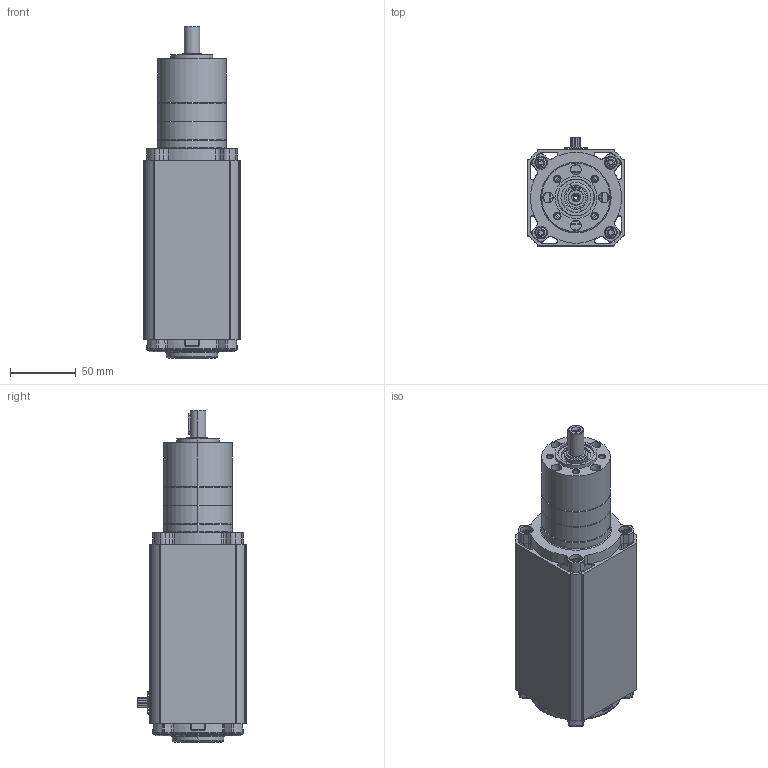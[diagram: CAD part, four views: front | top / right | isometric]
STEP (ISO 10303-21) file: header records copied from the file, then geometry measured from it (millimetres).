
FILE_DESCRIPTION (( 'STEP AP214' ), '1' );
FILE_NAME ('BL6560-PL5200i_2S.STEP', '2013-03-04T15:48:50', ( '' ), ( '' ), 'SwSTEP 2.0', 'SolidWorks 2013', '' );
FILE_SCHEMA (( 'AUTOMOTIVE_DESIGN' ));
Length unit declared in the file: inch
Products named in the file (1): BL6560-PL5200i_2S
Bounding box: 73.36 x 82.37 x 252.5 mm (x, y, z)
Surface area: 120022 mm2 (no closed solid volume)
Topology: 0 solids, 56 shells, 894 faces, 3124 edges, 2236 vertices
Faces by surface type: cylinder 371, plane 257, torus 100, cone 95, bspline 64, sphere 7
Entity records: 50354 total; most frequent: CARTESIAN_POINT 12443, DIRECTION 5558, ORIENTED_EDGE 5026, EDGE_CURVE 3118, VERTEX_POINT 2236, AXIS2_PLACEMENT_3D 2107, LINE 1344, VECTOR 1344
